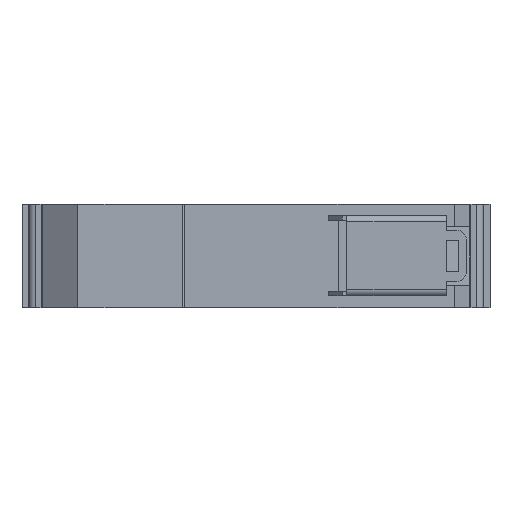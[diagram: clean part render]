
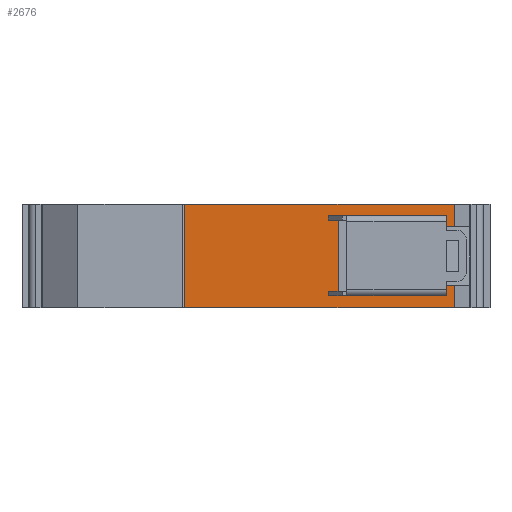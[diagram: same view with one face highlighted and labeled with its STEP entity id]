
A CAD part, front view. The second image highlights one B-rep face of the part: STEP entity #2676.
In plain terms, the highlighted planar face has unit normal (0, -1, 0).
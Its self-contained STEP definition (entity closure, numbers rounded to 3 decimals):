
#13 = CARTESIAN_POINT ( 'NONE',  ( 41., 0., 6.4 ) ) ;
#32 = CARTESIAN_POINT ( 'NONE',  ( 43.2, 0., -6.4 ) ) ;
#37 = ORIENTED_EDGE ( 'NONE', *, *, #882, .T. ) ;
#74 = VECTOR ( 'NONE', #538, 1000. ) ;
#89 = DIRECTION ( 'NONE',  ( -1., 0., 0. ) ) ;
#107 = CARTESIAN_POINT ( 'NONE',  ( -17.5, 0., 11.3 ) ) ;
#136 = DIRECTION ( 'NONE',  ( 0., 0., -1. ) ) ;
#164 = DIRECTION ( 'NONE',  ( -1., 0., 0. ) ) ;
#196 = CARTESIAN_POINT ( 'NONE',  ( -17.5, 0., -11.3 ) ) ;
#204 = CARTESIAN_POINT ( 'NONE',  ( -17.5, 0., -11.3 ) ) ;
#220 = VECTOR ( 'NONE', #164, 1000. ) ;
#229 = VERTEX_POINT ( 'NONE', #2365 ) ;
#266 = CARTESIAN_POINT ( 'NONE',  ( 43.2, 0., 6.4 ) ) ;
#326 = LINE ( 'NONE', #1189, #3057 ) ;
#339 = PLANE ( 'NONE',  #541 ) ;
#378 = DIRECTION ( 'NONE',  ( 0., 0., -1. ) ) ;
#464 = CARTESIAN_POINT ( 'NONE',  ( 43.2, 0., 11.3 ) ) ;
#504 = ORIENTED_EDGE ( 'NONE', *, *, #2980, .F. ) ;
#511 = EDGE_CURVE ( 'NONE', #2148, #1293, #552, .T. ) ;
#535 = EDGE_CURVE ( 'NONE', #1390, #1885, #2285, .T. ) ;
#538 = DIRECTION ( 'NONE',  ( 0., 0., 1. ) ) ;
#541 = AXIS2_PLACEMENT_3D ( 'NONE', #2784, #799, #1576 ) ;
#552 = LINE ( 'NONE', #32, #3097 ) ;
#601 = VECTOR ( 'NONE', #1366, 1000. ) ;
#690 = CARTESIAN_POINT ( 'NONE',  ( 18., 0., 7.75 ) ) ;
#702 = VECTOR ( 'NONE', #1654, 1000. ) ;
#757 = DIRECTION ( 'NONE',  ( 1., 0., 0. ) ) ;
#764 = VECTOR ( 'NONE', #1115, 1000. ) ;
#799 = DIRECTION ( 'NONE',  ( 0., 1., 0. ) ) ;
#820 = CARTESIAN_POINT ( 'NONE',  ( -17.5, 0., 11.3 ) ) ;
#848 = LINE ( 'NONE', #266, #601 ) ;
#853 = LINE ( 'NONE', #690, #220 ) ;
#854 = DIRECTION ( 'NONE',  ( 1., 0., 0. ) ) ;
#867 = EDGE_CURVE ( 'NONE', #1293, #1116, #3142, .T. ) ;
#882 = EDGE_CURVE ( 'NONE', #1885, #229, #1388, .T. ) ;
#946 = CARTESIAN_POINT ( 'NONE',  ( -17.5, 0., 11.3 ) ) ;
#999 = CARTESIAN_POINT ( 'NONE',  ( 18., 0., -7.75 ) ) ;
#1020 = EDGE_CURVE ( 'NONE', #1506, #2655, #2321, .T. ) ;
#1025 = ORIENTED_EDGE ( 'NONE', *, *, #535, .T. ) ;
#1109 = CARTESIAN_POINT ( 'NONE',  ( 41., 0., 7.75 ) ) ;
#1115 = DIRECTION ( 'NONE',  ( 1., 0., 0. ) ) ;
#1116 = VERTEX_POINT ( 'NONE', #1689 ) ;
#1163 = ORIENTED_EDGE ( 'NONE', *, *, #2805, .F. ) ;
#1189 = CARTESIAN_POINT ( 'NONE',  ( 18., 0., -7.75 ) ) ;
#1226 = CARTESIAN_POINT ( 'NONE',  ( 18., 0., 7.75 ) ) ;
#1255 = EDGE_CURVE ( 'NONE', #2409, #2834, #2383, .T. ) ;
#1260 = VECTOR ( 'NONE', #757, 1000. ) ;
#1267 = CARTESIAN_POINT ( 'NONE',  ( 43.2, 0., 11.3 ) ) ;
#1293 = VERTEX_POINT ( 'NONE', #1715 ) ;
#1330 = EDGE_CURVE ( 'NONE', #2655, #2401, #853, .T. ) ;
#1341 = ORIENTED_EDGE ( 'NONE', *, *, #2225, .F. ) ;
#1366 = DIRECTION ( 'NONE',  ( -1., 0., 0. ) ) ;
#1385 = LINE ( 'NONE', #999, #702 ) ;
#1388 = LINE ( 'NONE', #204, #1260 ) ;
#1390 = VERTEX_POINT ( 'NONE', #946 ) ;
#1412 = VECTOR ( 'NONE', #1736, 1000. ) ;
#1506 = VERTEX_POINT ( 'NONE', #2368 ) ;
#1563 = VECTOR ( 'NONE', #378, 1000. ) ;
#1576 = DIRECTION ( 'NONE',  ( -1., 0., 0. ) ) ;
#1654 = DIRECTION ( 'NONE',  ( 0., 0., -1. ) ) ;
#1689 = CARTESIAN_POINT ( 'NONE',  ( 41., 0., -7.75 ) ) ;
#1715 = CARTESIAN_POINT ( 'NONE',  ( 41., 0., -6.4 ) ) ;
#1736 = DIRECTION ( 'NONE',  ( 0., 0., -1. ) ) ;
#1753 = ORIENTED_EDGE ( 'NONE', *, *, #1330, .F. ) ;
#1843 = ORIENTED_EDGE ( 'NONE', *, *, #867, .T. ) ;
#1885 = VERTEX_POINT ( 'NONE', #196 ) ;
#1908 = ORIENTED_EDGE ( 'NONE', *, *, #1020, .F. ) ;
#2131 = DIRECTION ( 'NONE',  ( 0., 0., -1. ) ) ;
#2148 = VERTEX_POINT ( 'NONE', #3007 ) ;
#2181 = EDGE_CURVE ( 'NONE', #1390, #2409, #2586, .T. ) ;
#2225 = EDGE_CURVE ( 'NONE', #2834, #1506, #848, .T. ) ;
#2285 = LINE ( 'NONE', #107, #1563 ) ;
#2321 = LINE ( 'NONE', #13, #74 ) ;
#2322 = FACE_OUTER_BOUND ( 'NONE', #3044, .T. ) ;
#2365 = CARTESIAN_POINT ( 'NONE',  ( 43.2, 0., -11.3 ) ) ;
#2368 = CARTESIAN_POINT ( 'NONE',  ( 41., 0., 6.4 ) ) ;
#2383 = LINE ( 'NONE', #2844, #1412 ) ;
#2401 = VERTEX_POINT ( 'NONE', #1226 ) ;
#2409 = VERTEX_POINT ( 'NONE', #1267 ) ;
#2412 = VECTOR ( 'NONE', #2131, 1000. ) ;
#2482 = VECTOR ( 'NONE', #136, 1000. ) ;
#2548 = CARTESIAN_POINT ( 'NONE',  ( 18., 0., -7.75 ) ) ;
#2580 = ORIENTED_EDGE ( 'NONE', *, *, #1255, .F. ) ;
#2586 = LINE ( 'NONE', #820, #764 ) ;
#2589 = ORIENTED_EDGE ( 'NONE', *, *, #3485, .F. ) ;
#2655 = VERTEX_POINT ( 'NONE', #1109 ) ;
#2676 = ADVANCED_FACE ( 'NONE', ( #2322 ), #339, .F. ) ;
#2784 = CARTESIAN_POINT ( 'NONE',  ( -17.5, 0., 11.3 ) ) ;
#2805 = EDGE_CURVE ( 'NONE', #2401, #2970, #1385, .T. ) ;
#2834 = VERTEX_POINT ( 'NONE', #2989 ) ;
#2844 = CARTESIAN_POINT ( 'NONE',  ( 43.2, 0., 11.3 ) ) ;
#2907 = ORIENTED_EDGE ( 'NONE', *, *, #511, .T. ) ;
#2914 = ORIENTED_EDGE ( 'NONE', *, *, #2181, .F. ) ;
#2970 = VERTEX_POINT ( 'NONE', #2548 ) ;
#2980 = EDGE_CURVE ( 'NONE', #2970, #1116, #326, .T. ) ;
#2989 = CARTESIAN_POINT ( 'NONE',  ( 43.2, 0., 6.4 ) ) ;
#3007 = CARTESIAN_POINT ( 'NONE',  ( 43.2, 0., -6.4 ) ) ;
#3044 = EDGE_LOOP ( 'NONE', ( #1753, #1908, #1341, #2580, #2914, #1025, #37, #2589, #2907, #1843, #504, #1163 ) ) ;
#3057 = VECTOR ( 'NONE', #854, 1000. ) ;
#3097 = VECTOR ( 'NONE', #89, 1000. ) ;
#3142 = LINE ( 'NONE', #3202, #2412 ) ;
#3202 = CARTESIAN_POINT ( 'NONE',  ( 41., 0., -6.4 ) ) ;
#3265 = LINE ( 'NONE', #464, #2482 ) ;
#3485 = EDGE_CURVE ( 'NONE', #2148, #229, #3265, .T. ) ;
